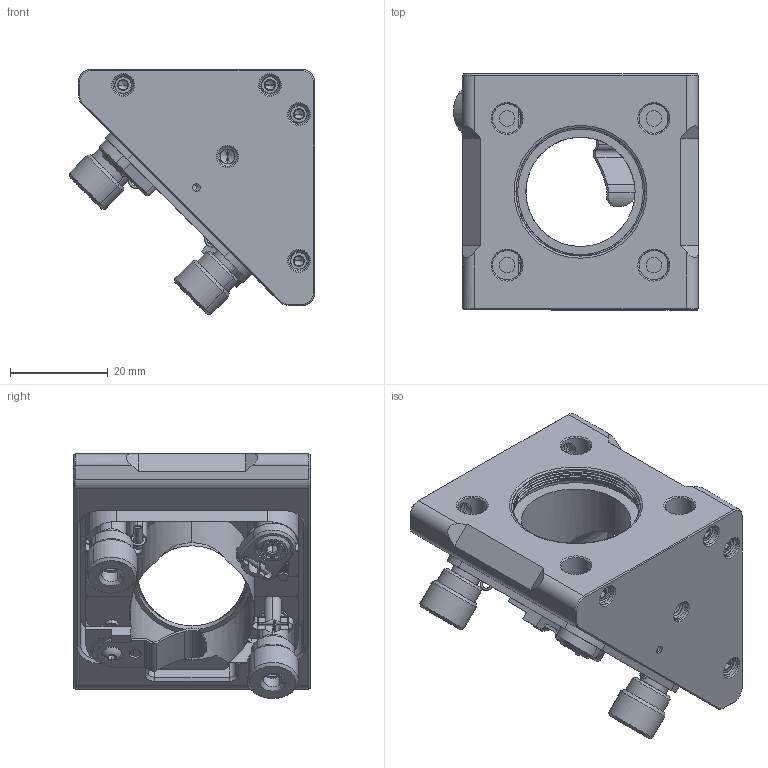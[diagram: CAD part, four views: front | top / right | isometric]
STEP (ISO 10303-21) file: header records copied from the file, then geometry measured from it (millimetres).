
FILE_DESCRIPTION((''),'2;1');
FILE_NAME('KCD1L-EC_ASM','2020-10-14T',('Administrator'),(''),'CREO PARAMETRIC BY PTC INC, 2015290','CREO PARAMETRIC BY PTC INC, 2015290','');
FILE_SCHEMA(('CONFIG_CONTROL_DESIGN'));
Products named in the file (28): M4X5_HS_8; M4X5_HS_9; AXLE_1_6X6_8; KCD1L-EC_A1; KCD1L-EC_A2; AXLE_1_6X6_9; AXLE_1_6X6_10; BALL_04; M4X5_HS_10; M4X5_HS_11; SPRING_3X10; KCD1L-EC_A3; M4X5_HS_12; KCD1L-M_A3_03; SPRING_3X10_3; M4X5_HS_4; M3X6_HS_4; M4X5_HS_7; KCD1L-EC_A_ASM; M5X14_CAP; KCD2L-A3; M5X15_HS_Q_0_25_2; M2X4_PM; M3X6_HS_2; SPACER_6X1_2; KCD1L-EC_A4; M2_5X8_PM; KCD1L-EC_ASM
Assembly tree (34 placements, depth 3):
  KCD1L-EC_ASM
    KCD1L-EC_A_ASM
      M4X5_HS_8
      M4X5_HS_9
      AXLE_1_6X6_8
      KCD1L-EC_A1
      KCD1L-EC_A2
      AXLE_1_6X6_9
      AXLE_1_6X6_10
      BALL_04
      M4X5_HS_10
      M4X5_HS_11
      SPRING_3X10
      KCD1L-EC_A3
      M4X5_HS_12
      KCD1L-M_A3_03
      SPRING_3X10_3
      M4X5_HS_4
      M3X6_HS_4
      M4X5_HS_7
    M5X14_CAP  x2
    KCD1L-M_A3_03  x2
    KCD2L-A3
    M5X15_HS_Q_0_25_2
    M2X4_PM  x2
    M3X6_HS_2  x3
    SPACER_6X1_2
    KCD1L-EC_A4
    M2_5X8_PM
    SPRING_3X10_3
Bounding box: 50.09 x 48.26 x 50.09 mm (x, y, z)
Volume: 45711.4 mm3; surface area: 27265 mm2
Topology: 35 solids, 35 shells, 1824 faces, 4448 edges, 2692 vertices
Faces by surface type: cylinder 731, cone 465, plane 442, bspline 158, sphere 14, torus 12, extrusion 2
Entity records: 116966 total; most frequent: CARTESIAN_POINT 78976, ORIENTED_EDGE 8170, DIRECTION 7176, EDGE_CURVE 4085, AXIS2_PLACEMENT_3D 2692, VERTEX_POINT 2512, EDGE_LOOP 1797, VECTOR 1792
